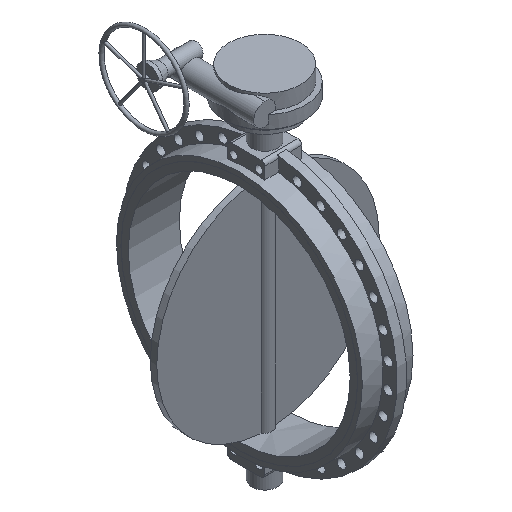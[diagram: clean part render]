
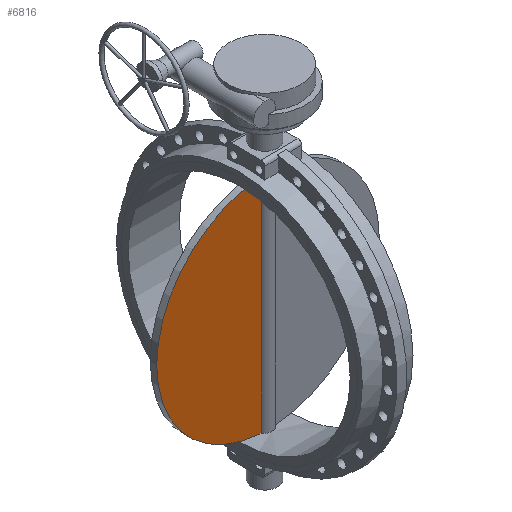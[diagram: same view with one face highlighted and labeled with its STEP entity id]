
A CAD part, isometric view. The second image highlights one B-rep face of the part: STEP entity #6816.
In plain terms, the highlighted planar face has unit normal (0, -1, 0).
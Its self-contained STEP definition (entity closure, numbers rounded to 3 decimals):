
#6816=ADVANCED_FACE('',(#12585),#12587,.T.);
#12585=FACE_BOUND('',#12586,.T.);
#12586=EDGE_LOOP('',(#16851,#16852,#16853,#16854));
#12587=PLANE('',#12588);
#12588=AXIS2_PLACEMENT_3D('',#12589,#12590,#12591);
#12589=CARTESIAN_POINT('',(0.,-17.5,0.));
#12590=DIRECTION('',(0.,-1.,0.));
#12591=DIRECTION('',(0.,0.,1.));
#16851=ORIENTED_EDGE('',*,*,#19008,.T.);
#16852=ORIENTED_EDGE('',*,*,#18990,.T.);
#16853=ORIENTED_EDGE('',*,*,#19007,.T.);
#16854=ORIENTED_EDGE('',*,*,#19004,.T.);
#18990=EDGE_CURVE('',#22506,#22503,#22507,.F.);
#19004=EDGE_CURVE('',#22520,#22532,#22534,.T.);
#19007=EDGE_CURVE('',#22503,#22520,#22538,.T.);
#19008=EDGE_CURVE('',#22532,#22506,#22539,.F.);
#22503=VERTEX_POINT('',#31951);
#22506=VERTEX_POINT('',#31989);
#22507=LINE('',#31990,#31991);
#22520=VERTEX_POINT('',#32177);
#22532=VERTEX_POINT('',#32368);
#22534=LINE('',#32398,#32399);
#22538=CIRCLE('',#32410,601.5);
#22539=LINE('',#32414,#32415);
#31951=CARTESIAN_POINT('',(-45.918,-17.5,599.745));
#31989=CARTESIAN_POINT('',(-35.969,-17.5,599.745));
#31990=CARTESIAN_POINT('',(-45.918,-17.5,599.745));
#31991=VECTOR('',#31992,1.);
#31992=DIRECTION('',(1.,0.,0.));
#32177=CARTESIAN_POINT('',(-45.918,-17.5,-599.745));
#32368=CARTESIAN_POINT('',(-35.969,-17.5,-599.745));
#32398=CARTESIAN_POINT('',(-45.918,-17.5,-599.745));
#32399=VECTOR('',#32400,1.);
#32400=DIRECTION('',(1.,0.,0.));
#32410=AXIS2_PLACEMENT_3D('',#32411,#32412,#32413);
#32411=CARTESIAN_POINT('',(0.,-17.5,0.));
#32412=DIRECTION('',(0.,-1.,0.));
#32413=DIRECTION('',(-0.076,0.,0.997));
#32414=CARTESIAN_POINT('',(-35.969,-17.5,599.745));
#32415=VECTOR('',#32416,1.);
#32416=DIRECTION('',(0.,0.,-1.));
